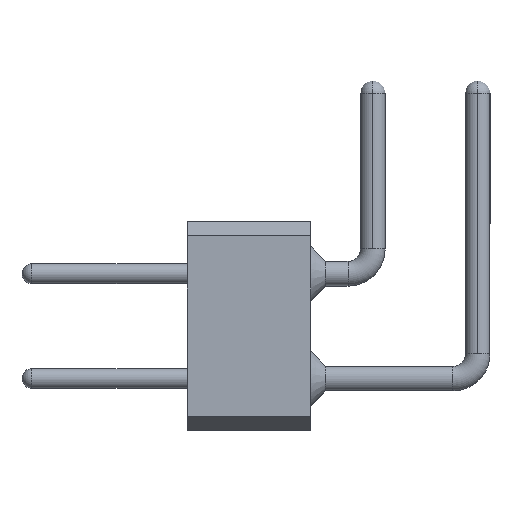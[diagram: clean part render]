
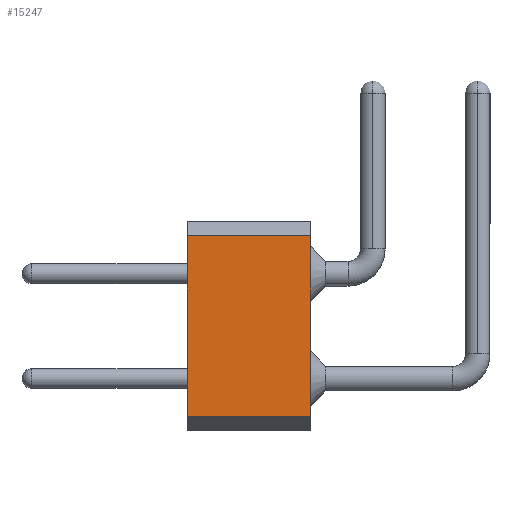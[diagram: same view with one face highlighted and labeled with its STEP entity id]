
A CAD part, left-side view. The second image highlights one B-rep face of the part: STEP entity #15247.
In plain terms, the highlighted planar face has unit normal (-1, 0, 0).
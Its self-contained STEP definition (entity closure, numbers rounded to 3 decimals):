
#1268 = EDGE_CURVE ( 'NONE', #21349, #16464, #15342, .T. ) ;
#1382 = VECTOR ( 'NONE', #12687, 1000. ) ;
#2487 = DIRECTION ( 'NONE',  ( 1., 0., 0. ) ) ;
#4604 = CARTESIAN_POINT ( 'NONE',  ( 3.324, 1.5, -2.513 ) ) ;
#5185 = DIRECTION ( 'NONE',  ( 0., 0., 1. ) ) ;
#5561 = ORIENTED_EDGE ( 'NONE', *, *, #1268, .T. ) ;
#7338 = CARTESIAN_POINT ( 'NONE',  ( 3.324, -1.5, 2.217 ) ) ;
#8222 = EDGE_CURVE ( 'NONE', #12694, #22429, #14753, .T. ) ;
#9278 = CARTESIAN_POINT ( 'NONE',  ( 3.324, 1.5, -2.163 ) ) ;
#10424 = CARTESIAN_POINT ( 'NONE',  ( 3.324, -1.5, 2.217 ) ) ;
#12467 = LINE ( 'NONE', #7338, #14662 ) ;
#12687 = DIRECTION ( 'NONE',  ( 0., 1., 0. ) ) ;
#12694 = VERTEX_POINT ( 'NONE', #9278 ) ;
#12752 = EDGE_CURVE ( 'NONE', #16464, #22429, #12467, .T. ) ;
#13004 = CARTESIAN_POINT ( 'NONE',  ( 3.324, -1.5, -2.163 ) ) ;
#14275 = ORIENTED_EDGE ( 'NONE', *, *, #19686, .F. ) ;
#14662 = VECTOR ( 'NONE', #30005, 1000. ) ;
#14753 = LINE ( 'NONE', #4604, #22852 ) ;
#15247 = ADVANCED_FACE ( 'NONE', ( #29486 ), #21708, .F. ) ;
#15342 = LINE ( 'NONE', #15497, #21845 ) ;
#15497 = CARTESIAN_POINT ( 'NONE',  ( 3.324, -1.5, -2.513 ) ) ;
#16464 = VERTEX_POINT ( 'NONE', #10424 ) ;
#16827 = DIRECTION ( 'NONE',  ( 0., 1., 0. ) ) ;
#18736 = ORIENTED_EDGE ( 'NONE', *, *, #12752, .T. ) ;
#19686 = EDGE_CURVE ( 'NONE', #21349, #12694, #22895, .T. ) ;
#21349 = VERTEX_POINT ( 'NONE', #23485 ) ;
#21708 = PLANE ( 'NONE',  #26772 ) ;
#21730 = DIRECTION ( 'NONE',  ( 0., 0., 1. ) ) ;
#21845 = VECTOR ( 'NONE', #5185, 1000. ) ;
#22429 = VERTEX_POINT ( 'NONE', #29356 ) ;
#22852 = VECTOR ( 'NONE', #21730, 1000. ) ;
#22895 = LINE ( 'NONE', #13004, #1382 ) ;
#23225 = ORIENTED_EDGE ( 'NONE', *, *, #8222, .F. ) ;
#23485 = CARTESIAN_POINT ( 'NONE',  ( 3.324, -1.5, -2.163 ) ) ;
#24901 = EDGE_LOOP ( 'NONE', ( #23225, #14275, #5561, #18736 ) ) ;
#26772 = AXIS2_PLACEMENT_3D ( 'NONE', #29331, #2487, #16827 ) ;
#29331 = CARTESIAN_POINT ( 'NONE',  ( 3.324, 1.5, -2.513 ) ) ;
#29356 = CARTESIAN_POINT ( 'NONE',  ( 3.324, 1.5, 2.217 ) ) ;
#29486 = FACE_OUTER_BOUND ( 'NONE', #24901, .T. ) ;
#30005 = DIRECTION ( 'NONE',  ( 0., 1., 0. ) ) ;
